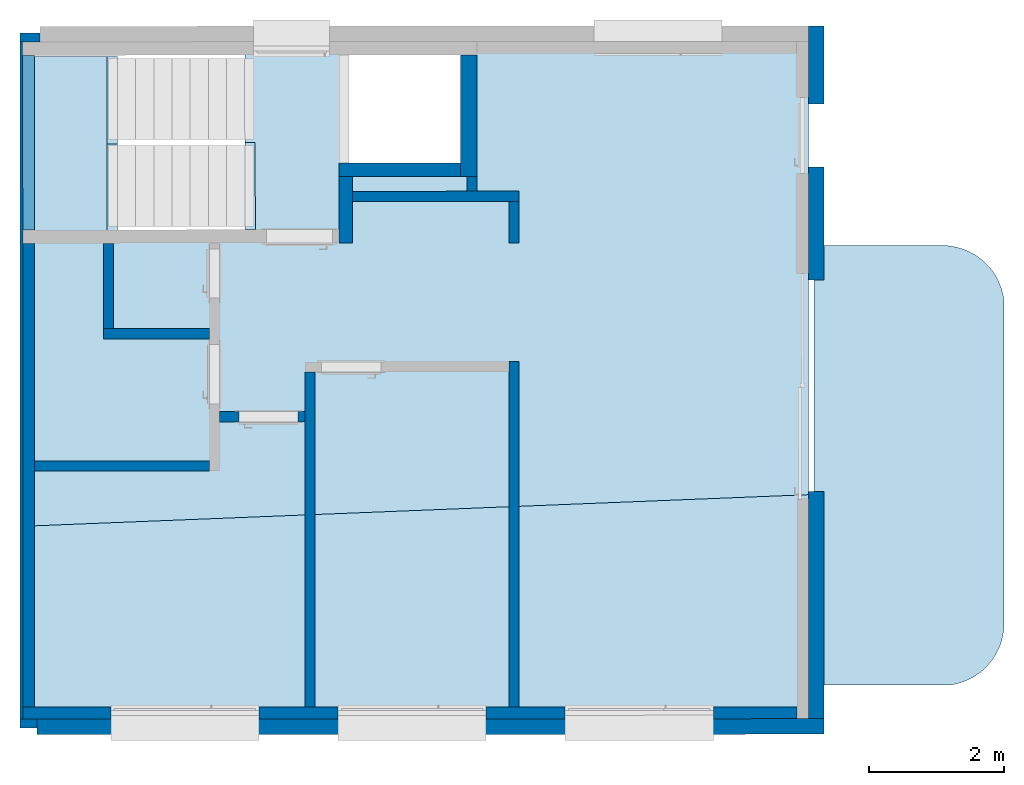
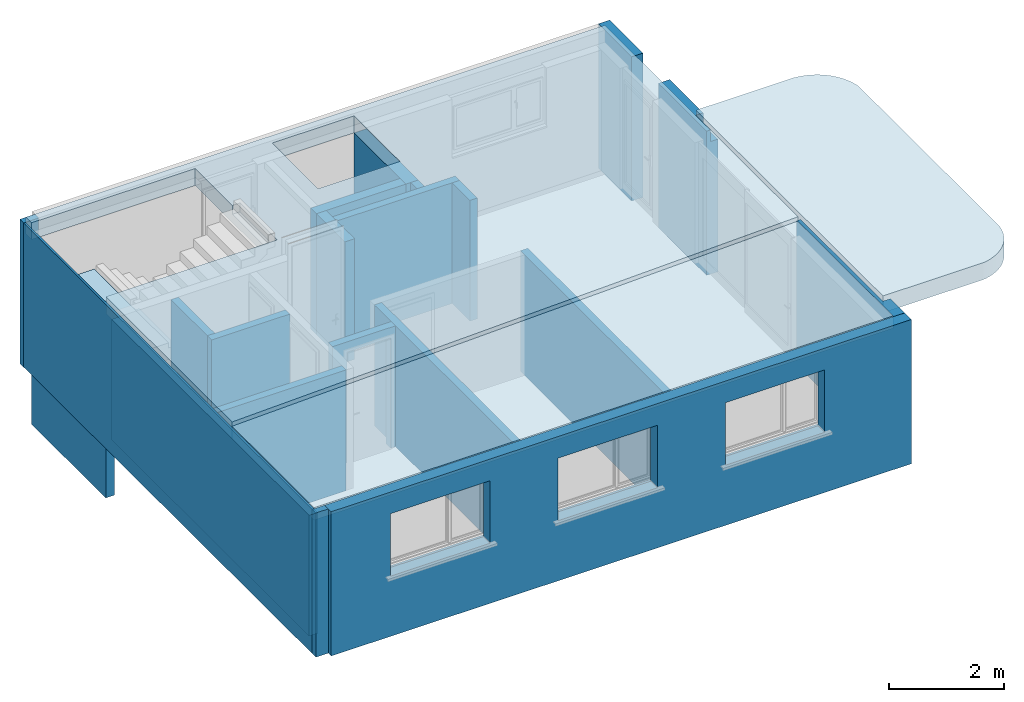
# One storey, part 1 of 8: 22 walls, 4 slabs, 12 openings.
"""IFC2X3 building model written with IfcOpenShell, lengths in metres."""

from ifc_helpers import new_model, entity, si_unit, converted_unit, derived_unit, direction, frame, frame_2d, origin, origin_with_axes, place, context, subcontext, project, spatial, polyline, rectangle, outline, extrude, clip, bounded_halfspace, faceted_brep, material, layer, layer_set, layer_usage, element, save


model = new_model("IFC2X3")

# Units and contexts
model_context = context("Model", 3, precision=1e-05, world=origin(), true_north=direction((0.772621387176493, -0.634867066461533)))
body_context = subcontext(model_context, "Body", "Model", "MODEL_VIEW")
ifc_project = project(units=[si_unit("LENGTHUNIT", "METRE"), si_unit("AREAUNIT", "SQUARE_METRE"), si_unit("VOLUMEUNIT", "CUBIC_METRE"), si_unit("MASSUNIT", "GRAM", prefix="KILO"), converted_unit("PLANEANGLEUNIT", "DEGREE", entity("IfcPlaneAngleMeasure", 0.0174532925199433), si_unit("PLANEANGLEUNIT", "RADIAN"), dimensions=[0, 0, 0, 0, 0, 0, 0]), derived_unit("THERMALTRANSMITTANCEUNIT", [(si_unit("POWERUNIT", "WATT"), 1), (si_unit("THERMODYNAMICTEMPERATUREUNIT", "KELVIN"), -1), (si_unit("LENGTHUNIT", "METRE"), -2)]), derived_unit("VOLUMETRICFLOWRATEUNIT", [(si_unit("LENGTHUNIT", "METRE"), 3), (converted_unit("TIMEUNIT", "hour", entity("IfcTimeMeasure", 3600.0), si_unit("TIMEUNIT", "SECOND"), dimensions=[0, 0, 1, 0, 0, 0, 0]), -1), (si_unit("LENGTHUNIT", "METRE"), -1)])], contexts=[model_context])

# Site, building, storey
site_placement = place(None, origin())
site = spatial("IfcSite", under=ifc_project, at=site_placement, Name="Modelle auf dem Nullpunkt", CompositionType="ELEMENT")
building_placement = place(site_placement, origin())
building = spatial("IfcBuilding", under=site, at=building_placement, Name="I", CompositionType="ELEMENT")
storey_placement = place(building_placement, origin())
storey = spatial("IfcBuildingStorey", under=building, at=storey_placement, Name="2.OG", CompositionType="ELEMENT", Elevation=0.0)

# Slab, openings
ifc_material_1 = material(Name="Béton")
slab_1_placement = place(storey_placement, frame((29.3670254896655, -0.673385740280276, 442.83)))
slab_1 = element("IfcSlab", 1, at=slab_1_placement, inside=storey, material=ifc_material_1, PredefinedType="FLOOR", context=body_context, shape_type="SweptSolid", body=[
    extrude(rectangle(XDim=1.40533482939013, YDim=2.59000000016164, at=frame_2d((-0.70220961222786, -1.29524829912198), x_axis=(-0.999999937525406, -0.00035348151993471))), frame((1.40533474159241, 2.59049659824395, 0.0), z_axis=(0.0, 0.0, 1.0), x_axis=(1.0, 0.0, 0.0)), (0.0, 0.0, 1.0), 0.36),
])
opening_1_placement = place(slab_1_placement, frame((1.25033033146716, 1.29544188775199, 0.156887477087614)))
element("IfcOpeningElement", 2, at=opening_1_placement, cuts=slab_1, Name="Beton", ObjectType="Recess", context=body_context, shape_type="SweptSolid", body=[
    extrude(rectangle(XDim=0.155004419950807, YDim=1.29500000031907, at=frame_2d((0.0, 0.0), x_axis=(-0.999999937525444, -0.000353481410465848))), frame((0.0777310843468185, 0.647527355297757, 0.0), z_axis=(0.0, 0.0, 1.0), x_axis=(1.0, 0.0, 0.0)), (0.0, 0.0, 1.0), 0.228034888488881),
])
opening_2_placement = place(slab_1_placement, frame((1.25078808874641, 0.000441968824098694, 0.253258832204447)))
element("IfcOpeningElement", 3, at=opening_2_placement, cuts=slab_1, Name="Beton", ObjectType="Recess", context=body_context, shape_type="SweptSolid", body=[
    extrude(rectangle(XDim=1.295, YDim=0.155004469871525, at=frame_2d((0.0, 0.0), x_axis=(1.0, 1.57991660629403e-09))), frame((0.0777310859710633, 0.647527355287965, 6.17373984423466e-05), z_axis=(0.000796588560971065, 2.8157954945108e-07, 0.999999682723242), x_axis=(0.000353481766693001, -0.999999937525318, 0.0)), (0.0, -0.000796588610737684, 0.999999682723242), 0.131663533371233),
])

ifc_material_2 = material(Name="Béton")
slab_2_placement = place(storey_placement, frame((29.3669477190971, -5.05338546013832, 444.24)))
slab_2 = element("IfcSlab", 4, at=slab_2_placement, inside=storey, material=ifc_material_2, PredefinedType="FLOOR", context=body_context, shape_type="SweptSolid", body=[
    extrude(outline(polyline([(0.0, 7.1899995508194), (0.00254153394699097, 0.0), (11.6623764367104, 0.469121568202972), (11.6599992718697, 7.19412114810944), (0.0, 7.1899995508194)]), holes=[polyline([(4.84563596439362, 5.39171228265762), (4.84507039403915, 6.99171218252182), (6.49507029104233, 6.99229542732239), (6.49563586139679, 5.39229552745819), (4.84563596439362, 5.39171228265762)])]), origin_with_axes(), (0.0, 0.0, 1.0), 0.36),
])
opening_3_placement = place(slab_2_placement, frame((7.06961154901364e-05, 5.86499963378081, 0.0)))
element("IfcOpeningElement", 5, at=opening_3_placement, cuts=slab_2, Name="Deckendurchbruch", ObjectType="Opening", context=body_context, shape_type="SweptSolid", body=[
    extrude(rectangle(XDim=3.29539717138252, YDim=1.1249999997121, at=frame_2d((0.0, 0.0), x_axis=(-0.999999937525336, -0.000353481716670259))), frame((1.64789731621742, 0.563082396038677, 0.0), z_axis=(0.0, 0.0, 1.0), x_axis=(1.0, 0.0, 0.0)), (0.0, 0.0, 1.0), 0.36),
])
opening_4_placement = place(slab_2_placement, frame((0.000468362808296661, 4.39999972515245, 0.0)))
element("IfcOpeningElement", 6, at=opening_4_placement, cuts=slab_2, Name="Deckendurchbruch", ObjectType="Opening", context=body_context, shape_type="SweptSolid", body=[
    extrude(rectangle(XDim=3.29539717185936, YDim=1.46499999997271, at=frame_2d((0.0, 0.0), x_axis=(-0.999999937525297, -0.000353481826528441))), frame((1.64795740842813, 0.733082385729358, 0.0), z_axis=(0.0, 0.0, 1.0), x_axis=(1.0, 0.0, 0.0)), (0.0, 0.0, 1.0), 0.36),
])
opening_5_placement = place(slab_2_placement, frame((3.29591418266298, 4.401164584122, 0.171838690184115)))
element("IfcOpeningElement", 7, at=opening_5_placement, cuts=slab_2, Name="Beton", ObjectType="Recess", context=body_context, shape_type="SweptSolid", body=[
    extrude(rectangle(XDim=0.155000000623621, YDim=1.29499999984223, at=frame_2d((0.0, 0.0), x_axis=(-0.999999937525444, -0.000353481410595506))), frame((0.0777288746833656, 0.647527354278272, 0.0), z_axis=(0.0, 0.0, 1.0), x_axis=(1.0, 0.0, 0.0)), (0.0, 0.0, 1.0), 0.188161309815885),
])

# Slabs
ifc_material_3 = material(Name="Béton")
slab_3_placement = place(storey_placement, frame((41.1080180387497, -7.40923544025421, 444.24)))
element("IfcSlab", 8, at=slab_3_placement, inside=storey, material=ifc_material_3, PredefinedType="FLOOR", context=body_context, shape_type="SweptSolid", body=[
    extrude(outline(polyline([(2.82200733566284, 0.841745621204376), (2.8202813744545, 5.724491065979), (2.81380840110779, 5.76526651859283), (2.8055125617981, 5.8057105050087), (2.79541056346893, 5.84574157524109), (2.78352275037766, 5.88527911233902), (2.76987306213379, 5.92424349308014), (2.75448898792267, 5.96255624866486), (2.73740150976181, 6.00014022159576), (2.71864503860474, 6.03691972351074), (2.69825734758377, 6.07282068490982), (2.67627949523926, 6.10777080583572), (2.65275574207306, 6.14169970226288), (2.62773346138, 6.17453904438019), (2.60126304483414, 6.20622269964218), (2.57339780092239, 6.23668686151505), (2.54419384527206, 6.26587017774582), (2.51370999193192, 6.29371387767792), (2.48200763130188, 6.3201618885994), (2.44915060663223, 6.34516094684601), (2.41520508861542, 6.36866070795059), (2.38023943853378, 6.3906138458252), (2.34432407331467, 6.41097615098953), (2.30753132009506, 6.42970661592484), (2.26993527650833, 6.44676751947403), (2.23161165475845, 6.46212450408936), (2.19263763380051, 6.47574664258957), (2.15309170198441, 6.48760650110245), (2.11305349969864, 6.49768019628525), (2.07260365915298, 6.50594744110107), (1.97925102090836, 6.52069922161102), (0.0, 6.51999959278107), (0.00230470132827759, 0.0), (2.02579917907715, 0.000715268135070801), (2.06657463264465, 0.00718824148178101), (2.10701861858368, 0.0154840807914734), (2.14704968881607, 0.0255860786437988), (2.18658722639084, 0.0374738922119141), (2.22555160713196, 0.05112358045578), (2.26386436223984, 0.0665076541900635), (2.30144833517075, 0.0835951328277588), (2.33822783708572, 0.10235160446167), (2.3741287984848, 0.122739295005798), (2.40907891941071, 0.144717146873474), (2.44300781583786, 0.168240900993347), (2.47584715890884, 0.193263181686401), (2.507530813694, 0.219733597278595), (2.53799497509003, 0.247598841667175), (2.56717829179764, 0.276802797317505), (2.59502199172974, 0.307286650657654), (2.62147000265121, 0.338989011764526), (2.64646906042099, 0.371846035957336), (2.66996882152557, 0.405791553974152), (2.69192195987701, 0.440757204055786), (2.71228426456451, 0.476672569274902), (2.73101472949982, 0.513465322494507), (2.74807563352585, 0.551061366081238), (2.76343261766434, 0.589384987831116), (2.77705475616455, 0.628359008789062), (2.78891461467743, 0.667904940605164), (2.79898831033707, 0.707943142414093), (2.80725555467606, 0.748392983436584), (2.82200733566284, 0.841745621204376)])), origin_with_axes(), (0.0, 0.0, 1.0), 0.36),
])
ifc_material_4 = material(Name="Béton")
slab_4_placement = place(storey_placement, frame((29.369489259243, -7.91338528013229, 444.24)))
element("IfcSlab", 9, at=slab_4_placement, inside=storey, material=ifc_material_4, PredefinedType="FLOOR", context=body_context, shape_type="SweptSolid", body=[
    extrude(outline(polyline([(0.0, 2.85999982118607), (0.00101095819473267, 0.0), (11.6610102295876, 0.00412159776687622), (11.6598349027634, 3.32912138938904), (0.0, 2.85999982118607)])), origin_with_axes(), (0.0, 0.0, 1.0), 0.27),
])

# Walls
ifc_material_5 = material(Name="Béton")
ifc_layer_1 = layer(ifc_material_5, 0.249999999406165)
ifc_layer_set_1 = layer_set([ifc_layer_1])
ifc_layer_usage_1 = layer_usage(ifc_layer_set_1, "AXIS2", "POSITIVE", -4.22370471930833e-16)
wall_1_placement = place(storey_placement, frame((36.1126542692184, 0.138998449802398, 441.67), z_axis=(0.0, 0.0, 1.0), x_axis=(-0.000353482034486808, 0.999999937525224, 0.0)))
element("IfcWallStandardCase", 10, at=wall_1_placement, inside=storey, material=ifc_layer_usage_1, Name="Betonwand", context=body_context, shape_type="SweptSolid", body=[
    extrude(rectangle(XDim=1.79999999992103, YDim=0.249999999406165, at=frame_2d((0.899999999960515, 0.124999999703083), x_axis=(1.0, 0.0))), origin_with_axes(), (0.0, 0.0, 1.0), 2.57),
])
ifc_material_6 = material(Name="Béton")
ifc_layer_2 = layer(ifc_material_6, 0.199999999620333)
ifc_layer_set_2 = layer_set([ifc_layer_2])
ifc_layer_usage_2 = layer_usage(ifc_layer_set_2, "AXIS2", "POSITIVE", -9.19403442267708e-17)
wall_2_placement = place(storey_placement, frame((35.8625835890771, 0.338910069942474, 441.67), z_axis=(0.0, 0.0, 1.0), x_axis=(-0.999999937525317, -0.000353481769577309, 0.0)))
element("IfcWallStandardCase", 11, at=wall_2_placement, inside=storey, material=ifc_layer_usage_2, Name="Betonwand", context=body_context, shape_type="SweptSolid", body=[
    extrude(rectangle(XDim=1.79999999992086, YDim=0.199999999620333, at=frame_2d((0.89999999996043, 0.0999999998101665), x_axis=(1.0, 0.0))), origin_with_axes(), (0.0, 0.0, 1.0), 2.57),
])
ifc_material_7 = material(Name="Brique")
ifc_layer_3 = layer(ifc_material_7, 0.15000000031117)
ifc_layer_set_3 = layer_set([ifc_layer_3])
ifc_layer_usage_3 = layer_usage(ifc_layer_set_3, "AXIS2", "POSITIVE", -7.34065586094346e-17)
wall_3_placement = place(storey_placement, frame((36.7327319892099, -0.0807823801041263, 441.67), z_axis=(0.0, 0.0, 1.0), x_axis=(-0.999999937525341, -0.000353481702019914, 0.0)))
element("IfcWallStandardCase", 12, at=wall_3_placement, inside=storey, material=ifc_layer_usage_3, context=body_context, shape_type="SweptSolid", body=[
    extrude(rectangle(XDim=2.46999999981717, YDim=0.15000000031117, at=frame_2d((1.23499999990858, 0.075000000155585), x_axis=(1.0, 0.0))), origin_with_axes(), (0.0, 0.0, 1.0), 2.57),
])
ifc_material_8 = material(Name="Brique")
ifc_layer_4 = layer(ifc_material_8, 0.15000000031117)
ifc_layer_set_4 = layer_set([ifc_layer_4])
ifc_layer_usage_4 = layer_usage(ifc_layer_set_4, "AXIS2", "POSITIVE", -4.3481201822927e-17)
wall_4_placement = place(storey_placement, frame((36.112732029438, -0.081001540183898, 441.67), z_axis=(0.0, 0.0, 1.0), x_axis=(-0.00035347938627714, 0.99999993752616, 0.0)))
element("IfcWallStandardCase", 13, at=wall_4_placement, inside=storey, material=ifc_layer_usage_4, context=body_context, shape_type="SweptSolid", body=[
    extrude(rectangle(XDim=0.21999999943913, YDim=0.15000000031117, at=frame_2d((0.109999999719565, 0.075000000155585), x_axis=(1.0, 0.0))), origin_with_axes(), (0.0, 0.0, 1.0), 2.57),
])
ifc_material_9 = material(Name="Béton")
ifc_layer_5 = layer(ifc_material_9, 0.200000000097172)
ifc_layer_set_5 = layer_set([ifc_layer_5])
ifc_layer_usage_5 = layer_usage(ifc_layer_set_5, "AXIS2", "POSITIVE", -2.33688068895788e-16)
wall_5_placement = place(storey_placement, frame((34.0626543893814, 0.138273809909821, 441.67), z_axis=(0.0, 0.0, 1.0), x_axis=(0.000353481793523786, -0.999999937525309, 0.0)))
element("IfcWallStandardCase", 14, at=wall_5_placement, inside=storey, material=ifc_layer_usage_5, Name="Betonwand", context=body_context, shape_type="SweptSolid", body=[
    extrude(rectangle(XDim=0.990000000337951, YDim=0.200000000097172, at=frame_2d((0.495000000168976, 0.100000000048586), x_axis=(1.0, 0.0))), origin_with_axes(), (0.0, 0.0, 1.0), 2.57),
])
ifc_material_10 = material(Name="Brique")
ifc_layer_6 = layer(ifc_material_10, 0.149999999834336)
ifc_layer_set_6 = layer_set([ifc_layer_6])
ifc_layer_usage_6 = layer_usage(ifc_layer_set_6, "AXIS2", "POSITIVE", -4.28268531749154e-16)
wall_6_placement = place(storey_placement, frame((36.5827850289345, -0.230835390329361, 441.67), z_axis=(0.0, 0.0, 1.0), x_axis=(0.000353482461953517, -0.999999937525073, 0.0)))
element("IfcWallStandardCase", 15, at=wall_6_placement, inside=storey, material=ifc_layer_usage_6, context=body_context, shape_type="SweptSolid", body=[
    extrude(rectangle(XDim=0.619999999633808, YDim=0.149999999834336, at=frame_2d((0.309999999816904, 0.0749999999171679), x_axis=(1.0, 0.0))), origin_with_axes(), (0.0, 0.0, 1.0), 2.57),
])
ifc_material_11 = material(Name="Isolation périphérique")
ifc_layer_7 = layer(ifc_material_11, 0.130000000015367)
ifc_layer_set_7 = layer_set([ifc_layer_7])
ifc_layer_usage_7 = layer_usage(ifc_layer_set_7, "AXIS2", "POSITIVE", -3.04754372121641e-16)
wall_7_placement = place(storey_placement, frame((29.3269477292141, 2.13659994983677, 441.42), z_axis=(0.0, 0.0, 1.0), x_axis=(0.999999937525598, 0.000353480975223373, 0.0)))
element("IfcWallStandardCase", 16, at=wall_7_placement, inside=storey, material=ifc_layer_usage_7, context=body_context, shape_type="SweptSolid", body=[
    extrude(rectangle(XDim=0.299999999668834, YDim=0.130000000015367, at=frame_2d((0.149999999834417, 0.0650000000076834), x_axis=(1.0, 0.0))), origin_with_axes(), (0.0, 0.0, 1.0), 3.07),
])
ifc_material_12 = material(Name="Isolation périphérique")
ifc_layer_8 = layer(ifc_material_12, 0.0399999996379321)
ifc_layer_set_8 = layer_set([ifc_layer_8])
ifc_layer_usage_8 = layer_usage(ifc_layer_set_8, "AXIS2", "POSITIVE", -3.61374635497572e-17)
wall_8_placement = place(storey_placement, frame((29.3705002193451, -7.91338528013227, 441.42), z_axis=(0.0, 0.0, 1.0), x_axis=(-0.000353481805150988, 0.999999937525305, 0.0)))
element("IfcWallStandardCase", 17, at=wall_8_placement, inside=storey, material=ifc_layer_usage_8, context=body_context, shape_type="SweptSolid", body=[
    extrude(rectangle(XDim=10.0499999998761, YDim=0.0399999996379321, at=frame_2d((5.02499999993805, 0.019999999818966), x_axis=(1.0, 0.0))), origin_with_axes(), (0.0, 0.0, 1.0), 3.07),
])
ifc_material_13 = material(Name="Isolation périphérique")
ifc_layer_9 = layer(ifc_material_13, 0.129999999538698)
ifc_layer_set_9 = layer_set([ifc_layer_9])
ifc_layer_usage_9 = layer_usage(ifc_layer_set_9, "AXIS2", "POSITIVE", -1.80837767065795e-19)
wall_9_placement = place(storey_placement, frame((29.5805001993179, -7.91331105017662, 441.42), z_axis=(0.0, 0.0, 1.0), x_axis=(-0.999999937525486, -0.000353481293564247, 0.0)))
element("IfcWallStandardCase", 18, at=wall_9_placement, inside=storey, material=ifc_layer_usage_9, context=body_context, shape_type="SweptSolid", body=[
    extrude(rectangle(XDim=0.249999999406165, YDim=0.129999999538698, at=frame_2d((0.124999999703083, 0.064999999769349), x_axis=(1.0, 0.0))), origin_with_axes(), (0.0, 0.0, 1.0), 3.07),
])
ifc_material_14 = material(Name="Brique")
ifc_layer_10 = layer(ifc_material_14, 0.150000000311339)
ifc_layer_set_10 = layer_set([ifc_layer_10])
ifc_layer_usage_10 = layer_usage(ifc_layer_set_10, "AXIS2", "POSITIVE", -8.40078874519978e-17)
wall_10_placement = place(storey_placement, frame((32.1384529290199, -2.12112780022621, 441.67), z_axis=(0.0, 0.0, 1.0), x_axis=(-0.999999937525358, -0.000353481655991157, 0.0)))
element("IfcWallStandardCase", 19, at=wall_10_placement, inside=storey, material=ifc_layer_usage_10, context=body_context, shape_type="SweptSolid", body=[
    extrude(rectangle(XDim=1.57500000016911, YDim=0.150000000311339, at=frame_2d((0.787500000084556, 0.0750000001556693), x_axis=(1.0, 0.0))), origin_with_axes(), (0.0, 0.0, 1.0), 2.57),
])
ifc_material_15 = material(Name="Brique")
ifc_layer_11 = layer(ifc_material_15, 0.149999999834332)
ifc_layer_set_11 = layer_set([ifc_layer_11])
ifc_layer_usage_11 = layer_usage(ifc_layer_set_11, "AXIS2", "POSITIVE", -2.27293288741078e-16)
wall_11_placement = place(storey_placement, frame((30.5630045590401, -0.852963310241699, 441.67), z_axis=(0.0, 0.0, 1.0), x_axis=(0.000353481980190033, -0.999999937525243, 0.0)))
element("IfcWallStandardCase", 20, at=wall_11_placement, inside=storey, material=ifc_layer_usage_11, context=body_context, shape_type="SweptSolid", body=[
    extrude(rectangle(XDim=1.268721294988, YDim=0.149999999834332, at=frame_2d((0.634360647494, 0.0749999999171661), x_axis=(1.0, 0.0))), origin_with_axes(), (0.0, 0.0, 1.0), 2.57),
])
ifc_material_16 = material(Name="Brique")
ifc_layer_12 = layer(ifc_material_16, 0.149999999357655)
ifc_layer_set_12 = layer_set([ifc_layer_12])
ifc_layer_usage_12 = layer_usage(ifc_layer_set_12, "AXIS2", "POSITIVE", -1.47559669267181e-16)
wall_12_placement = place(storey_placement, frame((36.7354378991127, -7.7357819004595, 441.67), z_axis=(0.0, 0.0, 1.0), x_axis=(-0.000353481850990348, 0.999999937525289, 0.0)))
element("IfcWallStandardCase", 21, at=wall_12_placement, inside=storey, material=ifc_layer_usage_12, context=body_context, shape_type="SweptSolid", body=[
    extrude(rectangle(XDim=5.12499999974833, YDim=0.149999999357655, at=frame_2d((2.56249999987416, 0.0749999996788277), x_axis=(1.0, 0.0))), origin_with_axes(), (0.0, 0.0, 1.0), 2.57),
])
ifc_material_17 = material(Name="Brique")
ifc_layer_13 = layer(ifc_material_17, 0.149999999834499)
ifc_layer_set_13 = layer_set([ifc_layer_13])
ifc_layer_usage_13 = layer_usage(ifc_layer_set_13, "AXIS2", "POSITIVE", 0.0)
wall_13_placement = place(storey_placement, frame((33.5536795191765, -2.76190628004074, 441.67), z_axis=(0.0, 0.0, 1.0), x_axis=(0.000353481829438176, -0.999999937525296, 0.0)))
element("IfcWallStandardCase", 22, at=wall_13_placement, inside=storey, material=ifc_layer_usage_13, context=body_context, shape_type="SweptSolid", body=[
    extrude(rectangle(XDim=4.97500000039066, YDim=0.149999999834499, at=frame_2d((2.48750000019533, 0.0749999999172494), x_axis=(1.0, 0.0))), origin_with_axes(), (0.0, 0.0, 1.0), 2.57),
])
ifc_material_18 = material(Name="Brique")
ifc_layer_14 = layer(ifc_material_18, 0.149999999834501)
ifc_layer_set_14 = layer_set([ifc_layer_14])
ifc_layer_usage_14 = layer_usage(ifc_layer_set_14, "AXIS2", "POSITIVE", 0.0)
wall_14_placement = place(storey_placement, frame((29.5441993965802, -4.233323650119, 441.67), z_axis=(0.0, 0.0, 1.0), x_axis=(0.999999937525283, 0.000353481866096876, 0.0)))
element("IfcWallStandardCase", 23, at=wall_14_placement, inside=storey, material=ifc_layer_usage_14, context=body_context, shape_type="SweptSolid", body=[
    extrude(rectangle(XDim=2.5949999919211, YDim=0.149999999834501, at=frame_2d((1.29749999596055, 0.0749999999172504), x_axis=(1.0, 0.0))), origin_with_axes(), (0.0, 0.0, 1.0), 2.57),
])
ifc_material_19 = material(Name="Brique")
ifc_layer_15 = layer(ifc_material_19, 0.17499999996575)
ifc_layer_set_15 = layer_set([ifc_layer_15])
ifc_layer_usage_15 = layer_usage(ifc_layer_set_15, "AXIS2", "POSITIVE", -1.57449733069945e-16)
wall_15_placement = place(storey_placement, frame((29.3680046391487, -0.853385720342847, 441.67), z_axis=(0.0, 0.0, 1.0), x_axis=(0.000353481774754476, -0.999999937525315, 0.0)))
element("IfcWallStandardCase", 24, at=wall_15_placement, inside=storey, material=ifc_layer_usage_15, context=body_context, shape_type="SweptSolid", body=[
    extrude(rectangle(XDim=6.88500000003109, YDim=0.17499999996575, at=frame_2d((3.44250000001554, 0.0874999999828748), x_axis=(1.0, 0.0))), origin_with_axes(), (0.0, 0.0, 1.0), 2.57),
])
ifc_material_20 = material(Name="Isolation périphérique")
ifc_layer_16 = layer(ifc_material_20, 0.230000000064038)
ifc_layer_set_16 = layer_set([ifc_layer_16])
ifc_layer_usage_16 = layer_usage(ifc_layer_set_16, "AXIS2", "POSITIVE", -1.82091822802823e-15)
wall_16_placement = place(storey_placement, frame((41.2604994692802, -7.90918239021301, 441.42), z_axis=(0.0, 0.0, 1.0), x_axis=(-0.000353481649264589, 0.99999993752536, 0.0)))
element("IfcWallStandardCase", 25, at=wall_16_placement, inside=storey, material=ifc_layer_usage_16, context=body_context, shape_type="Clipping", body=[
    clip(extrude(rectangle(XDim=3.37000000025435, YDim=0.230000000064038, at=frame_2d((1.68500000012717, 0.115000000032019), x_axis=(1.0, 0.0))), origin_with_axes(), (0.0, 0.0, 1.0), 3.07), bounded_halfspace(frame((1.93500000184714, 0.0749999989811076, 2.81999999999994), z_axis=(0.0, 0.0, -1.0), x_axis=(-3.7006577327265e-11, -1.0, 0.0)), True, origin_with_axes(), polyline([(0.50000000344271, 0.149999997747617), (0.500000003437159, 0.0), (3.37000000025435, 0.0), (3.37000000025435, 0.149999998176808), (0.50000000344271, 0.149999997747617)]))),
])
ifc_material_21 = material(Name="Isolation périphérique")
ifc_layer_17 = layer(ifc_material_21, 0.230000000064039)
ifc_layer_set_17 = layer_set([ifc_layer_17])
ifc_layer_usage_17 = layer_usage(ifc_layer_set_17, "AXIS2", "POSITIVE", -1.81866780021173e-15)
wall_17_placement = place(storey_placement, frame((41.2581983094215, -1.39918279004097, 441.42), z_axis=(0.0, 0.0, 1.0), x_axis=(-0.000353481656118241, 0.999999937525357, 0.0)))
element("IfcWallStandardCase", 26, at=wall_17_placement, inside=storey, material=ifc_layer_usage_17, context=body_context, shape_type="Clipping", body=[
    clip(extrude(rectangle(XDim=1.67999999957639, YDim=0.230000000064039, at=frame_2d((0.839999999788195, 0.115000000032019), x_axis=(1.0, 0.0))), origin_with_axes(), (0.0, 0.0, 1.0), 3.07), bounded_halfspace(frame((0.254999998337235, 0.0750000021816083, 2.81999999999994), z_axis=(0.0, 0.0, -1.0), x_axis=(-1.0, -1.42697153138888e-10, 0.0)), True, origin_with_axes(), polyline([(0.509999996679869, 0.150000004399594), (0.0, 0.150000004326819), (0.0, 0.0), (0.509999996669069, 0.0), (0.509999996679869, 0.150000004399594)]))),
])
ifc_material_22 = material(Name="Isolation périphérique")
ifc_layer_18 = layer(ifc_material_22, 0.230000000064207)
ifc_layer_set_18 = layer_set([ifc_layer_18])
ifc_layer_usage_18 = layer_usage(ifc_layer_set_18, "AXIS2", "POSITIVE", -7.23352210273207e-19)
wall_18_placement = place(storey_placement, frame((41.2572757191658, 1.21081704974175, 441.42), z_axis=(0.0, 0.0, 1.0), x_axis=(-0.000353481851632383, 0.999999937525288, 0.0)))
element("IfcWallStandardCase", 27, at=wall_18_placement, inside=storey, material=ifc_layer_usage_18, context=body_context, shape_type="SweptSolid", body=[
    extrude(rectangle(XDim=1.16000000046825, YDim=0.230000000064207, at=frame_2d((0.580000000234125, 0.115000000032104), x_axis=(1.0, 0.0))), origin_with_axes(), (0.0, 0.0, 1.0), 3.07),
])
ifc_material_23 = material(Name="Brique")
ifc_layer_19 = layer(ifc_material_23, 0.175000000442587)
ifc_layer_set_19 = layer_set([ifc_layer_19])
ifc_layer_usage_19 = layer_usage(ifc_layer_set_19, "AXIS2", "POSITIVE", -1.13686830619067e-16)
wall_19_placement = place(storey_placement, frame((29.5429339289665, -0.653323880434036, 440.315), z_axis=(0.0, 0.0, 1.0), x_axis=(-0.000353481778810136, 0.999999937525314, 0.0)))
element("IfcWallStandardCase", 28, at=wall_19_placement, inside=storey, material=ifc_layer_usage_19, context=body_context, shape_type="SweptSolid", body=[
    extrude(rectangle(XDim=2.5899999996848, YDim=0.175000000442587, at=frame_2d((1.2949999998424, 0.0875000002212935), x_axis=(1.0, 0.0))), origin_with_axes(), (0.0, 0.0, 1.0), 2.515),
])

# Wall, openings
ifc_material_24 = material(Name="Brique")
wall_20_placement = place(storey_placement, frame((29.3704383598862, -7.91338528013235, 441.67)))
wall_20 = element("IfcWall", 29, at=wall_20_placement, inside=storey, material=ifc_material_24, context=body_context, shape_type="Brep", body=[
    faceted_brep([(6.18593102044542e-05, 0.0, 0.0), (0.0, 0.174999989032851, 0.0), (0.0, 0.174999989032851, 2.57), (6.18593102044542e-05, 0.0, 2.57), (11.4849992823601, 0.179059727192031, 0.0), (11.4849992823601, 0.179059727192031, 2.57), (11.4850611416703, 0.00405973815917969, 0.0), (11.4850611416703, 0.00405973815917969, 2.57)], [[[0, 1, 2, 3]], [[1, 4, 5, 2]], [[4, 6, 7, 5]], [[6, 0, 3, 7]], [[3, 2, 5, 7]], [[0, 6, 4, 1]]], orient=[[False], [False], [False], [False], [False], [False]]),
])
opening_6_placement = place(wall_20_placement, frame((1.30499991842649, 0.000461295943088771, 0.93)))
element("IfcOpeningElement", 30, at=opening_6_placement, cuts=wall_20, ObjectType="Opening", context=body_context, shape_type="Brep", body=[
    faceted_brep([(2.19999986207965, 0.175777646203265, 0.0), (2.19999986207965, 0.175777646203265, 1.64), (0.0, 0.174999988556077, 1.64), (0.0, 0.174999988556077, 0.0), (2.20006172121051, 0.00077765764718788, 0.0), (6.1859130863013e-05, 0.0, 0.0), (6.1859130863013e-05, 0.0, 1.64), (2.20006172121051, 0.00077765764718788, 1.64)], [[[0, 1, 2, 3]], [[4, 5, 6, 7]], [[3, 5, 4, 0]], [[2, 6, 5, 3]], [[1, 7, 6, 2]], [[0, 4, 7, 1]]], orient=[[False], [False], [False], [False], [False], [False]]),
])
opening_7_placement = place(wall_20_placement, frame((4.67499970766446, 0.00165252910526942, 0.93)))
element("IfcOpeningElement", 31, at=opening_7_placement, cuts=wall_20, ObjectType="Opening", context=body_context, shape_type="Brep", body=[
    faceted_brep([(2.19999986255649, 0.175777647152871, 0.0), (2.19999986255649, 0.175777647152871, 1.64), (0.0, 0.17499998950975, 1.64), (0.0, 0.17499998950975, 0.0), (2.20006172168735, 0.000777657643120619, 0.0), (6.1859130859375e-05, 0.0, 0.0), (6.1859130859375e-05, 0.0, 1.64), (2.20006172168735, 0.000777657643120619, 1.64)], [[[0, 1, 2, 3]], [[4, 5, 6, 7]], [[3, 5, 4, 0]], [[2, 6, 5, 3]], [[1, 7, 6, 2]], [[0, 4, 7, 1]]], orient=[[False], [False], [False], [False], [False], [False]]),
])
opening_8_placement = place(wall_20_placement, frame((8.0449994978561, 0.00284376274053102, 0.93)))
element("IfcOpeningElement", 32, at=opening_8_placement, cuts=wall_20, ObjectType="Opening", context=body_context, shape_type="Brep", body=[
    faceted_brep([(2.19999986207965, 0.175777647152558, 0.0), (2.19999986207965, 0.175777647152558, 1.64), (0.0, 0.174999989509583, 1.64), (0.0, 0.174999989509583, 0.0), (2.20006172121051, 0.0007776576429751, 0.0), (6.1859130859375e-05, 0.0, 0.0), (6.1859130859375e-05, 0.0, 1.64), (2.20006172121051, 0.0007776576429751, 1.64)], [[[0, 1, 2, 3]], [[4, 5, 6, 7]], [[3, 5, 4, 0]], [[2, 6, 5, 3]], [[1, 7, 6, 2]], [[0, 4, 7, 1]]], orient=[[False], [False], [False], [False], [False], [False]]),
])

ifc_material_25 = material(Name="Isolation périphérique")
wall_21_placement = place(storey_placement, frame((29.580500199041, -8.14331104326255, 441.42)))
wall_21 = element("IfcWall", 33, at=wall_21_placement, inside=storey, material=ifc_material_25, context=body_context, shape_type="Brep", body=[
    faceted_brep([(11.6799992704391, 0.234128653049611, 0.0), (11.6800805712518, 0.00412866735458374, 0.0), (11.6800805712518, 0.00412866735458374, 3.07), (11.6799992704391, 0.234128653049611, 3.07), (8.13008126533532e-05, 0.0, 0.0), (8.13008126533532e-05, 0.0, 3.07), (0.0, 0.229999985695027, 0.0), (0.0, 0.229999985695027, 3.07)], [[[0, 1, 2, 3]], [[1, 4, 5, 2]], [[4, 6, 7, 5]], [[6, 0, 3, 7]], [[3, 2, 5, 7]], [[0, 6, 4, 1]]], orient=[[False], [False], [False], [False], [False], [False]]),
])
opening_9_placement = place(wall_21_placement, frame((1.19499992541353, 0.000422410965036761, 1.28)))
element("IfcOpeningElement", 34, at=opening_9_placement, cuts=wall_21, ObjectType="Opening", context=body_context, shape_type="Brep", body=[
    faceted_brep([(2.00008117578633, 0.000706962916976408, 0.0), (8.13007354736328e-05, 0.0, 0.0), (8.13007354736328e-05, 0.0, 1.33), (2.00008117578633, 0.000706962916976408, 1.33), (1.99999987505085, 0.230706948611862, 0.0), (1.99999987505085, 0.230706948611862, 1.33), (0.0, 0.229999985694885, 1.33), (0.0, 0.229999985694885, 0.0)], [[[0, 1, 2, 3]], [[4, 5, 6, 7]], [[1, 0, 4, 7]], [[2, 1, 7, 6]], [[3, 2, 6, 5]], [[0, 3, 5, 4]]], orient=[[False], [False], [False], [False], [False], [False]]),
])
opening_10_placement = place(wall_21_placement, frame((4.56499971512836, 0.00161364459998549, 1.28)))
element("IfcOpeningElement", 35, at=opening_10_placement, cuts=wall_21, ObjectType="Opening", context=body_context, shape_type="Brep", body=[
    faceted_brep([(2.00008117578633, 0.000706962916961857, 0.0), (8.13007354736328e-05, 0.0, 0.0), (8.13007354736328e-05, 0.0, 1.33), (2.00008117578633, 0.000706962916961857, 1.33), (1.99999987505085, 0.230706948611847, 0.0), (1.99999987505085, 0.230706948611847, 1.33), (0.0, 0.229999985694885, 1.33), (0.0, 0.229999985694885, 0.0)], [[[0, 1, 2, 3]], [[4, 5, 6, 7]], [[1, 0, 4, 7]], [[2, 1, 7, 6]], [[3, 2, 6, 5]], [[0, 3, 5, 4]]], orient=[[False], [False], [False], [False], [False], [False]]),
])
opening_11_placement = place(wall_21_placement, frame((7.93499950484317, 0.00280487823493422, 1.28)))
element("IfcOpeningElement", 36, at=opening_11_placement, cuts=wall_21, ObjectType="Opening", context=body_context, shape_type="Brep", body=[
    faceted_brep([(2.00008117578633, 0.000706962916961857, 0.0), (8.13007354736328e-05, 0.0, 0.0), (8.13007354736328e-05, 0.0, 1.33), (2.00008117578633, 0.000706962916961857, 1.33), (1.99999987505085, 0.230706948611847, 0.0), (1.99999987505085, 0.230706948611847, 1.33), (0.0, 0.229999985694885, 1.33), (0.0, 0.229999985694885, 0.0)], [[[0, 1, 2, 3]], [[4, 5, 6, 7]], [[1, 0, 4, 7]], [[2, 1, 7, 6]], [[3, 2, 6, 5]], [[0, 3, 5, 4]]], orient=[[False], [False], [False], [False], [False], [False]]),
])

# Wall, opening
ifc_material_26 = material(Name="Brique")
wall_22_placement = place(storey_placement, frame((32.288888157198, -3.50235339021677, 441.67)))
wall_22 = element("IfcWall", 37, at=wall_22_placement, inside=storey, material=ifc_material_26, context=body_context, shape_type="Brep", body=[
    faceted_brep([(5.30222471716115e-05, 0.0, 0.0), (0.0, 0.149999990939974, 0.0), (0.0, 0.149999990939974, 2.57), (5.30222471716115e-05, 0.0, 2.57), (1.26499992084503, 0.150447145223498, 0.0), (1.26499992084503, 0.150447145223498, 2.57), (1.2650529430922, 0.00044715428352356, 0.0), (1.2650529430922, 0.00044715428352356, 2.57)], [[[0, 1, 2, 3]], [[1, 4, 5, 2]], [[4, 6, 7, 5]], [[6, 0, 3, 7]], [[3, 2, 5, 7]], [[0, 6, 4, 1]]], orient=[[False], [False], [False], [False], [False], [False]]),
])
opening_12_placement = place(wall_22_placement, frame((0.28499998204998, 0.000100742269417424, 0.0)))
element("IfcOpeningElement", 38, at=opening_12_placement, cuts=wall_22, ObjectType="Opening", context=body_context, shape_type="Brep", body=[
    faceted_brep([(0.880052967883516, 0.000311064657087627, 0.0), (5.30223846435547e-05, 0.0, 0.0), (5.30223846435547e-05, 0.0, 2.35), (0.880052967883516, 0.000311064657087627, 2.35), (0.879999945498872, 0.150311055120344, 0.0), (0.879999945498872, 0.150311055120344, 2.35), (0.0, 0.149999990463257, 2.35), (0.0, 0.149999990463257, 0.0)], [[[0, 1, 2, 3]], [[4, 5, 6, 7]], [[1, 0, 4, 7]], [[2, 1, 7, 6]], [[3, 2, 6, 5]], [[0, 3, 5, 4]]], orient=[[False], [False], [False], [False], [False], [False]]),
])

save(model, "model.ifc")
